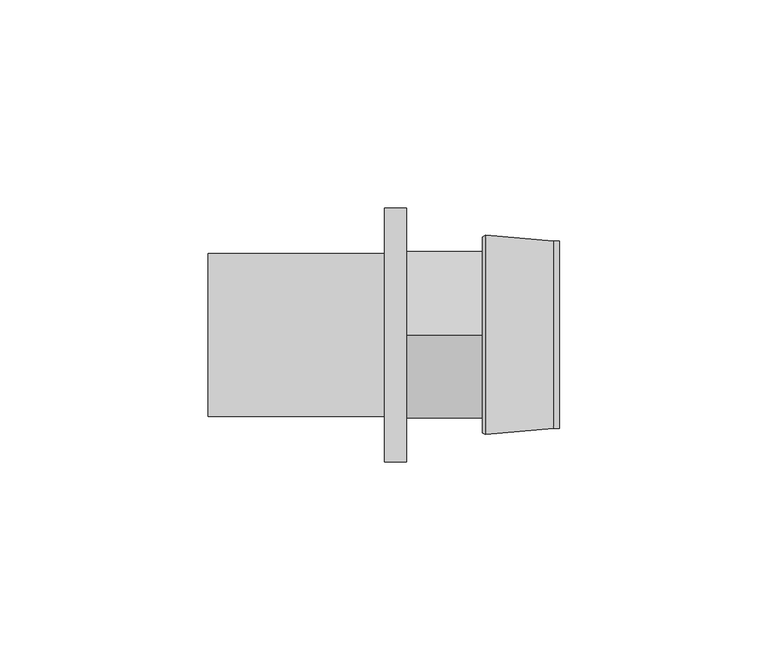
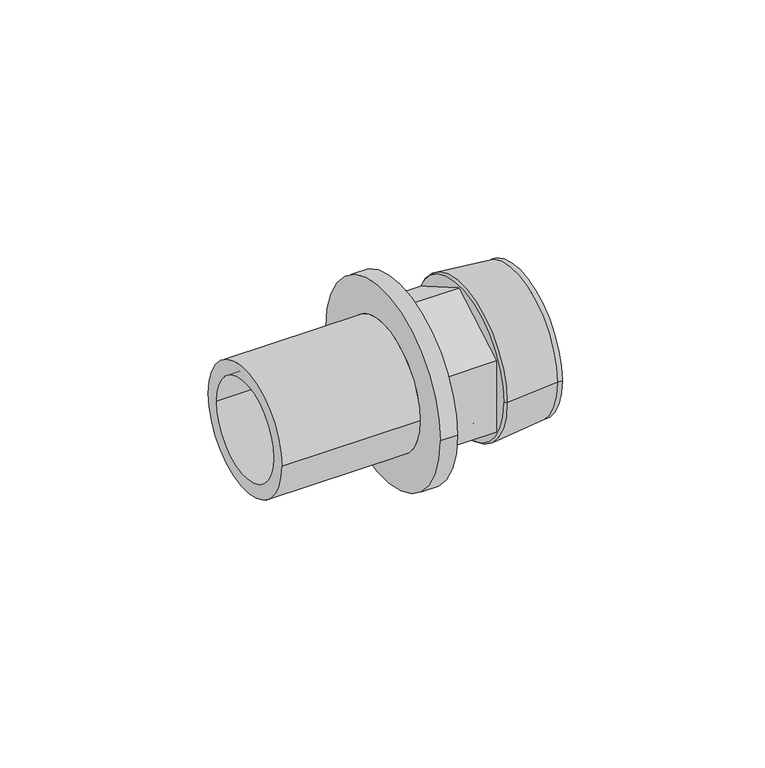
"""IFC4 building model written with IfcOpenShell, lengths in millimetres: pipe fitting geometry, RAUTITAN_Adapter_external_thread LX+G_LX : RTI A external LX+G_LX DE."""

from ifc_helpers import new_model, si_unit, frame, origin, place, context, project, spatial, polyline, circle_curve, outline, extrude, source, transform, mapped, element, save
from ifc_brep_helpers import plane_surface, cylinder_surface, revolved_surface, advanced_brep


def pipe_fitting_89b5f679(model_context):
    return source(origin(), model_context, "Body", "SolidModel", [
        advanced_brep(
        [(-5.25, 19.6, 0.0), (-5.25, -19.6, 0.0), (-47.71, -19.6, 0.0), (-47.71, 19.6, 0.0), (0.0, 30.5, 0.0), (0.0, -30.5, 0.0), (-5.25, -30.5, 0.0), (-5.25, 30.5, 0.0), (-47.71, 15.25, 0.0), (-47.71, -15.25, 0.0), (0.0, -15.25, 0.0), (0.0, 15.25, 0.0)],
        [
            (0, 1, circle_curve(frame((-5.25, 0.0, 0.0), z_axis=(-1.0, 0.0, 0.0), x_axis=(0.0, -1.0, 0.0)), 19.6)),
            (1, 2),
            (2, 3, circle_curve(frame((-47.71, 0.0, 0.0), z_axis=(1.0, 0.0, 0.0), x_axis=(0.0, -1.0, 0.0)), 19.6)),
            (3, 0),
            (4, 5, circle_curve(frame((0.0, 0.0, 0.0), z_axis=(-1.0, 0.0, 0.0), x_axis=(0.0, -1.0, 0.0)), 30.5)),
            (5, 6),
            (6, 7, circle_curve(frame((-5.25, 0.0, 0.0), z_axis=(1.0, 0.0, 0.0), x_axis=(0.0, -1.0, 0.0)), 30.5)),
            (7, 4),
            (8, 9, circle_curve(frame((-47.71, 0.0, 0.0), z_axis=(-1.0, 0.0, 0.0), x_axis=(0.0, -1.0, 0.0)), 15.25)),
            (9, 10),
            (10, 11, circle_curve(frame((0.0, 0.0, 0.0), z_axis=(1.0, 0.0, 0.0), x_axis=(0.0, -1.0, 0.0)), 15.25)),
            (11, 8),
            (2, 3, circle_curve(frame((-47.71, 0.0, 0.0), z_axis=(-1.0, 0.0, 0.0), x_axis=(0.0, 1.0, 0.0)), 19.6)),
            (8, 9, circle_curve(frame((-47.71, 0.0, 0.0), z_axis=(1.0, 0.0, 0.0), x_axis=(0.0, 1.0, 0.0)), 15.25)),
            (1, 0, circle_curve(frame((-5.25, 0.0, 0.0), z_axis=(-1.0, 0.0, 0.0), x_axis=(0.0, 1.0, 0.0)), 19.6)),
            (6, 7, circle_curve(frame((-5.25, 0.0, 0.0), z_axis=(-1.0, 0.0, 0.0), x_axis=(0.0, 1.0, 0.0)), 30.5)),
            (5, 4, circle_curve(frame((0.0, 0.0, 0.0), z_axis=(-1.0, 0.0, 0.0), x_axis=(0.0, 1.0, 0.0)), 30.5)),
            (10, 11, circle_curve(frame((0.0, 0.0, 0.0), z_axis=(-1.0, 0.0, 0.0), x_axis=(0.0, 1.0, 0.0)), 15.25)),
        ],
        [
            cylinder_surface(frame((0.0, 0.0, 0.0), z_axis=(1.0, 0.0, 0.0), x_axis=(0.0, -1.0, 0.0)), 19.6),
            cylinder_surface(frame((0.0, 0.0, 0.0), z_axis=(1.0, 0.0, 0.0), x_axis=(0.0, -1.0, 0.0)), 30.5),
            revolved_surface(polyline([(0.0, -15.25, 0.0), (-47.71, -15.25, 0.0)]), (0.0, 0.0, 0.0), (1.0, 0.0, 0.0)),
            plane_surface(frame((-47.71, 0.0, 0.0), z_axis=(-1.0, 0.0, 0.0), x_axis=(0.0, 1.0, 0.0))),
            cylinder_surface(frame((0.0, 0.0, 0.0), z_axis=(1.0, 0.0, 0.0), x_axis=(0.0, 1.0, 0.0)), 19.6),
            plane_surface(frame((-5.25, 0.0, 0.0), z_axis=(-1.0, 0.0, 0.0), x_axis=(0.0, 1.0, 0.0))),
            cylinder_surface(frame((0.0, 0.0, 0.0), z_axis=(1.0, 0.0, 0.0), x_axis=(0.0, 1.0, 0.0)), 30.5),
            plane_surface(frame((0.0, 0.0, 0.0), z_axis=(1.0, 0.0, 0.0), x_axis=(0.0, 1.0, 0.0))),
            revolved_surface(polyline([(0.0, 15.25, 0.0), (-47.71, 15.25, 0.0)]), (0.0, 0.0, 0.0), (1.0, 0.0, 0.0)),
        ],
        [
            (0, [[1, 2, 3, 4]]),
            (1, [[5, 6, 7, 8]]),
            (2, [[9, 10, 11, 12]]),
            (3, [[13, -3], [14, -9]]),
            (4, [[15, -4, -13, -2]]),
            (5, [[16, -7], [-15, -1]]),
            (6, [[17, -8, -16, -6]]),
            (7, [[-17, -5], [18, -11]]),
            (8, [[-14, -12, -18, -10]]),
        ],
    ),
        advanced_brep(
        [(19.3932803, 18.75, 0.0), (19.3932803, -18.75, 0.0), (36.79, -18.75, 0.0), (36.79, 18.75, 0.0), (18.29, 17.6467197, 0.0), (18.29, -17.6467197, 0.0), (19.0306902, 23.99, 0.0), (19.0306902, -23.99, 0.0), (18.29, -23.54, 0.0), (18.29, 23.54, 0.0), (35.2900007, 22.51, 0.0), (35.2900007, -22.51, 0.0), (36.79, 22.51, 0.0), (36.79, -22.51, 0.0)],
        [
            (0, 1, circle_curve(frame((19.3932803, 0.0, 0.0), z_axis=(-1.0, 0.0, 0.0), x_axis=(0.0, -1.0, 0.0)), 18.75)),
            (1, 2),
            (2, 3, circle_curve(frame((36.79, 0.0, 0.0), z_axis=(1.0, 0.0, 0.0), x_axis=(0.0, -1.0, 0.0)), 18.75)),
            (3, 0),
            (4, 5, circle_curve(frame((18.29, 0.0, 0.0), z_axis=(-1.0, 0.0, 0.0), x_axis=(0.0, -1.0, 0.0)), 17.6467197)),
            (5, 1),
            (0, 4),
            (6, 7, circle_curve(frame((19.0306902, 0.0, 0.0), z_axis=(-1.0, 0.0, 0.0), x_axis=(0.0, -1.0, 0.0)), 23.99)),
            (7, 8),
            (8, 9, circle_curve(frame((18.29, 0.0, 0.0), z_axis=(1.0, 0.0, 0.0), x_axis=(0.0, -1.0, 0.0)), 23.54)),
            (9, 6),
            (10, 11, circle_curve(frame((35.2900007, 0.0, 0.0), z_axis=(-1.0, 0.0, 0.0), x_axis=(0.0, -1.0, 0.0)), 22.51)),
            (11, 7),
            (6, 10),
            (12, 13, circle_curve(frame((36.79, 0.0, 0.0), z_axis=(-1.0, 0.0, 0.0), x_axis=(0.0, -1.0, 0.0)), 22.51)),
            (13, 11),
            (10, 12),
            (1, 0, circle_curve(frame((19.3932803, 0.0, 0.0), z_axis=(-1.0, 0.0, 0.0), x_axis=(0.0, 1.0, 0.0)), 18.75)),
            (3, 2, circle_curve(frame((36.79, 0.0, 0.0), z_axis=(1.0, 0.0, 0.0), x_axis=(0.0, 1.0, 0.0)), 18.75)),
            (5, 4, circle_curve(frame((18.29, 0.0, 0.0), z_axis=(-1.0, 0.0, 0.0), x_axis=(0.0, 1.0, 0.0)), 17.6467197)),
            (8, 9, circle_curve(frame((18.29, 0.0, 0.0), z_axis=(-1.0, 0.0, 0.0), x_axis=(0.0, 1.0, 0.0)), 23.54)),
            (7, 6, circle_curve(frame((19.0306902, 0.0, 0.0), z_axis=(-1.0, 0.0, 0.0), x_axis=(0.0, 1.0, 0.0)), 23.99)),
            (11, 10, circle_curve(frame((35.2900007, 0.0, 0.0), z_axis=(-1.0, 0.0, 0.0), x_axis=(0.0, 1.0, 0.0)), 22.51)),
            (13, 12, circle_curve(frame((36.79, 0.0, 0.0), z_axis=(-1.0, 0.0, 0.0), x_axis=(0.0, 1.0, 0.0)), 22.51)),
        ],
        [
            revolved_surface(polyline([(36.79, -18.75, 0.0), (19.3932803, -18.75, 0.0)]), (0.0, 0.0, 0.0), (1.0, 0.0, 0.0)),
            revolved_surface(polyline([(19.3932803, -18.75, 0.0), (18.29, -17.6467197, 0.0)]), (0.0, 0.0, 0.0), (1.0, 0.0, 0.0)),
            revolved_surface(polyline([(18.29, -23.54, 0.0), (19.0306902, -23.99, 0.0)]), (0.0, 0.0, 0.0), (1.0, 0.0, 0.0)),
            revolved_surface(polyline([(19.0306902, -23.99, 0.0), (35.2900007, -22.51, 0.0)]), (0.0, 0.0, 0.0), (1.0, 0.0, 0.0)),
            cylinder_surface(frame((0.0, 0.0, 0.0), z_axis=(1.0, 0.0, 0.0), x_axis=(0.0, -1.0, 0.0)), 22.51),
            revolved_surface(polyline([(36.79, 18.75, 0.0), (19.3932803, 18.75, 0.0)]), (0.0, 0.0, 0.0), (1.0, 0.0, 0.0)),
            revolved_surface(polyline([(19.3932803, 18.75, 0.0), (18.29, 17.6467197, 0.0)]), (0.0, 0.0, 0.0), (1.0, 0.0, 0.0)),
            plane_surface(frame((18.29, 0.0, 0.0), z_axis=(-1.0, 0.0, 0.0), x_axis=(0.0, 1.0, 0.0))),
            revolved_surface(polyline([(18.29, 23.54, 0.0), (19.0306902, 23.99, 0.0)]), (0.0, 0.0, 0.0), (1.0, 0.0, 0.0)),
            revolved_surface(polyline([(19.0306902, 23.99, 0.0), (35.2900007, 22.51, 0.0)]), (0.0, 0.0, 0.0), (1.0, 0.0, 0.0)),
            cylinder_surface(frame((0.0, 0.0, 0.0), z_axis=(1.0, 0.0, 0.0), x_axis=(0.0, 1.0, 0.0)), 22.51),
            plane_surface(frame((36.79, 0.0, 0.0), z_axis=(1.0, 0.0, 0.0), x_axis=(0.0, 1.0, 0.0))),
        ],
        [
            (0, [[1, 2, 3, 4]]),
            (1, [[5, 6, -1, 7]]),
            (2, [[8, 9, 10, 11]]),
            (3, [[12, 13, -8, 14]]),
            (4, [[15, 16, -12, 17]]),
            (5, [[18, -4, 19, -2]]),
            (6, [[20, -7, -18, -6]]),
            (7, [[21, -10], [-20, -5]]),
            (8, [[22, -11, -21, -9]]),
            (9, [[23, -14, -22, -13]]),
            (10, [[24, -17, -23, -16]]),
            (11, [[-24, -15], [-19, -3]]),
        ],
    ),
        extrude(outline(polyline([(-20.0, 11.5470054), (0.0, 23.0940108), (20.0, 11.5470054), (20.0, -11.5470054), (0.0, -23.0940108), (-20.0, -11.5470054), (-20.0, 11.5470054)])), frame((0.0, 0.0, 0.0), z_axis=(1.0, 0.0, 0.0), x_axis=(0.0, 1.0, 0.0)), (0.0, 0.0, 1.0), 18.29),
    ])


if __name__ == "__main__":
    model = new_model("IFC4")
    model_context = context("Model", 3, world=origin())
    ifc_project = project(units=[si_unit("LENGTHUNIT", "METRE", prefix="MILLI")], contexts=[model_context])
    site = spatial("IfcSite", under=ifc_project)
    building = spatial("IfcBuilding", under=site)
    placement = place(None, origin())
    pipe_fitting_shape = pipe_fitting_89b5f679(model_context)
    element("IfcPipeFitting", 1, ObjectType="RAUTITAN_Adapter_external_thread LX+G_LX : RTI A external LX+G_LX DE", at=placement, inside=building, context=model_context, shape_type="MappedRepresentation", body=[
        mapped(pipe_fitting_shape, transform((0.0, 0.0, 0.0), x_axis=(1.0, 0.0, 0.0), y_axis=(0.0, 1.0, 0.0), z_axis=(0.0, 0.0, 1.0))),
    ])
    save(model, "model.ifc")
